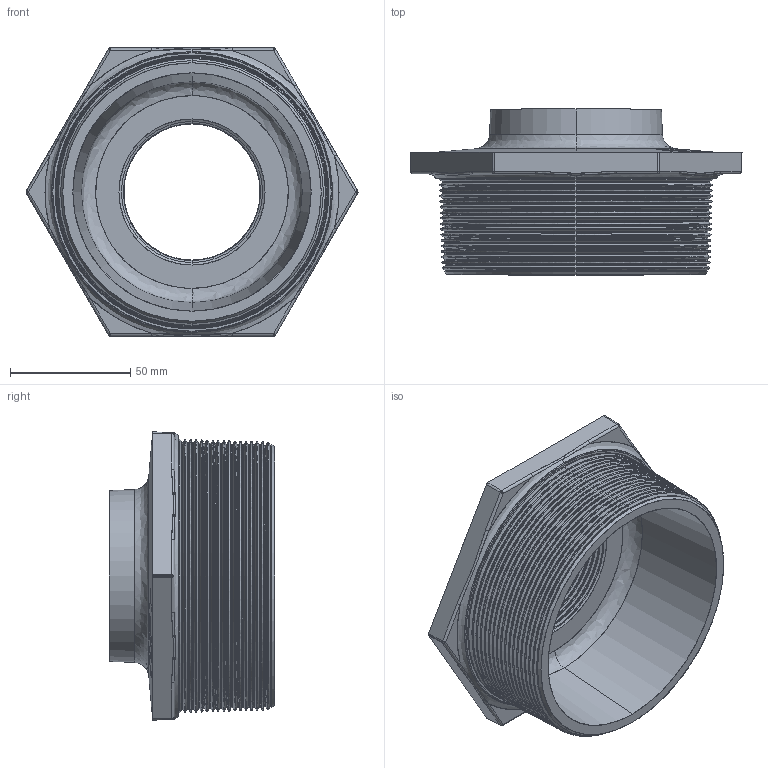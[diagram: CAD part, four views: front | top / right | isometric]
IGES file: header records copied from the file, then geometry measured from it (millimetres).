
Start section: SolidWorks IGES file using analytic representation for surfaces
Global section: file name: C:\Users\Joel Rosa\Desktop\Tubulação\12-01-OK\12-01-058.IGS; native system: SolidWorks 2011; preprocessor: SolidWorks 2011; author: Joel Rosa; date: 121203.202414; units: millimetre
Bounding box: 138.25 x 69 x 120 mm (x, y, z)
Surface area: 67880 mm2 (no closed solid volume)
Topology: 0 solids, 0 shells, 464 faces, 3907 edges, 3907 vertices
Faces by surface type: bspline 301, revolution 163
